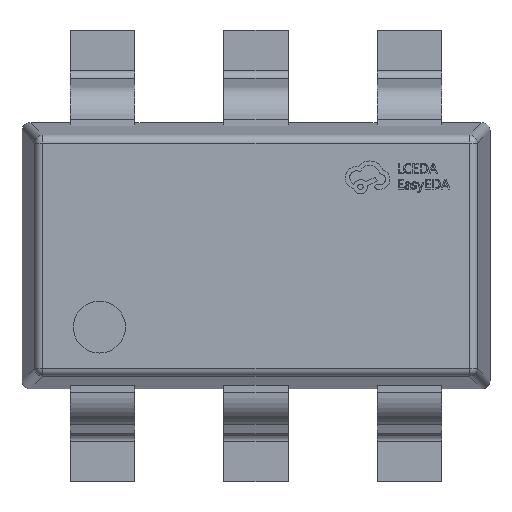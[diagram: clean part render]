
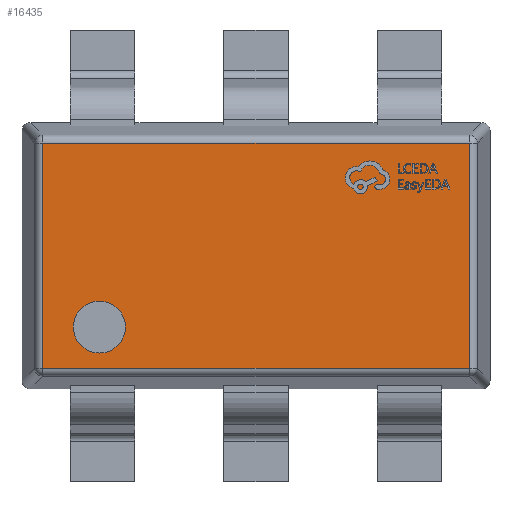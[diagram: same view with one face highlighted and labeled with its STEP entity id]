
A CAD part, top view. The second image highlights one B-rep face of the part: STEP entity #16435.
In plain terms, the highlighted planar face has unit normal (0, 0, 1).
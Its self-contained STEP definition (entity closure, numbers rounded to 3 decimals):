
#242 = ORIENTED_EDGE ( 'NONE', *, *, #13986, .T. ) ;
#251 = ORIENTED_EDGE ( 'NONE', *, *, #11887, .T. ) ;
#328 = AXIS2_PLACEMENT_3D ( 'NONE', #7519, #12176, #7236 ) ;
#515 = AXIS2_PLACEMENT_3D ( 'NONE', #15727, #14333, #4862 ) ;
#1057 = CARTESIAN_POINT ( 'NONE',  ( 1.322, 0.741, 0.6 ) ) ;
#1308 = ORIENTED_EDGE ( 'NONE', *, *, #19029, .T. ) ;
#1407 = CARTESIAN_POINT ( 'NONE',  ( 1.322, 0.697, 0.6 ) ) ;
#1939 = CIRCLE ( 'NONE', #328, 0.161 ) ;
#2082 = CARTESIAN_POINT ( 'NONE',  ( 1.366, -0.697, 0.6 ) ) ;
#2786 = CARTESIAN_POINT ( 'NONE',  ( -0.809, -0.443, 0.6 ) ) ;
#3161 = LINE ( 'NONE', #4757, #9470 ) ;
#3658 = FACE_BOUND ( 'NONE', #3864, .T. ) ;
#3712 = VERTEX_POINT ( 'NONE', #1407 ) ;
#3864 = EDGE_LOOP ( 'NONE', ( #14967, #5964 ) ) ;
#4526 = CARTESIAN_POINT ( 'NONE',  ( 1.322, -0.697, 0.6 ) ) ;
#4757 = CARTESIAN_POINT ( 'NONE',  ( -1.366, 0.697, 0.6 ) ) ;
#4862 = DIRECTION ( 'NONE',  ( 1., 0., 0. ) ) ;
#5887 = EDGE_CURVE ( 'NONE', #10626, #17124, #16801, .T. ) ;
#5964 = ORIENTED_EDGE ( 'NONE', *, *, #5887, .F. ) ;
#6047 = CARTESIAN_POINT ( 'NONE',  ( -0.97, -0.443, 0.6 ) ) ;
#6205 = VERTEX_POINT ( 'NONE', #4526 ) ;
#6759 = CARTESIAN_POINT ( 'NONE',  ( -1.322, -0.741, 0.6 ) ) ;
#6801 = CARTESIAN_POINT ( 'NONE',  ( -1.131, -0.443, 0.6 ) ) ;
#7223 = DIRECTION ( 'NONE',  ( 0., 1., 0. ) ) ;
#7236 = DIRECTION ( 'NONE',  ( 1., 0., 0. ) ) ;
#7476 = AXIS2_PLACEMENT_3D ( 'NONE', #6047, #13491, #9228 ) ;
#7519 = CARTESIAN_POINT ( 'NONE',  ( -0.97, -0.443, 0.6 ) ) ;
#8137 = FACE_OUTER_BOUND ( 'NONE', #14422, .T. ) ;
#9065 = CARTESIAN_POINT ( 'NONE',  ( -1.322, 0.697, 0.6 ) ) ;
#9228 = DIRECTION ( 'NONE',  ( 1., 0., 0. ) ) ;
#9470 = VECTOR ( 'NONE', #15622, 1000. ) ;
#10060 = EDGE_CURVE ( 'NONE', #17124, #10626, #1939, .T. ) ;
#10626 = VERTEX_POINT ( 'NONE', #6801 ) ;
#10714 = DIRECTION ( 'NONE',  ( 1., 0., 0. ) ) ;
#10993 = ORIENTED_EDGE ( 'NONE', *, *, #17287, .T. ) ;
#11795 = CARTESIAN_POINT ( 'NONE',  ( -1.322, -0.697, 0.6 ) ) ;
#11887 = EDGE_CURVE ( 'NONE', #17022, #6205, #14339, .T. ) ;
#12176 = DIRECTION ( 'NONE',  ( 0., 0., 1. ) ) ;
#12593 = PLANE ( 'NONE',  #515 ) ;
#12986 = LINE ( 'NONE', #6759, #19464 ) ;
#13491 = DIRECTION ( 'NONE',  ( 0., 0., 1. ) ) ;
#13986 = EDGE_CURVE ( 'NONE', #3712, #17096, #3161, .T. ) ;
#14333 = DIRECTION ( 'NONE',  ( 0., 0., 1. ) ) ;
#14339 = LINE ( 'NONE', #2082, #14683 ) ;
#14422 = EDGE_LOOP ( 'NONE', ( #251, #1308, #242, #10993 ) ) ;
#14444 = VECTOR ( 'NONE', #7223, 1000. ) ;
#14683 = VECTOR ( 'NONE', #10714, 1000. ) ;
#14967 = ORIENTED_EDGE ( 'NONE', *, *, #10060, .F. ) ;
#15622 = DIRECTION ( 'NONE',  ( -1., 0., 0. ) ) ;
#15727 = CARTESIAN_POINT ( 'NONE',  ( 0., 0., 0.6 ) ) ;
#16435 = ADVANCED_FACE ( 'NONE', ( #8137, #3658 ), #12593, .T. ) ;
#16801 = CIRCLE ( 'NONE', #7476, 0.161 ) ;
#17022 = VERTEX_POINT ( 'NONE', #11795 ) ;
#17096 = VERTEX_POINT ( 'NONE', #9065 ) ;
#17124 = VERTEX_POINT ( 'NONE', #2786 ) ;
#17287 = EDGE_CURVE ( 'NONE', #17096, #17022, #12986, .T. ) ;
#17999 = LINE ( 'NONE', #1057, #14444 ) ;
#18922 = DIRECTION ( 'NONE',  ( 0., -1., 0. ) ) ;
#19029 = EDGE_CURVE ( 'NONE', #6205, #3712, #17999, .T. ) ;
#19464 = VECTOR ( 'NONE', #18922, 1000. ) ;
